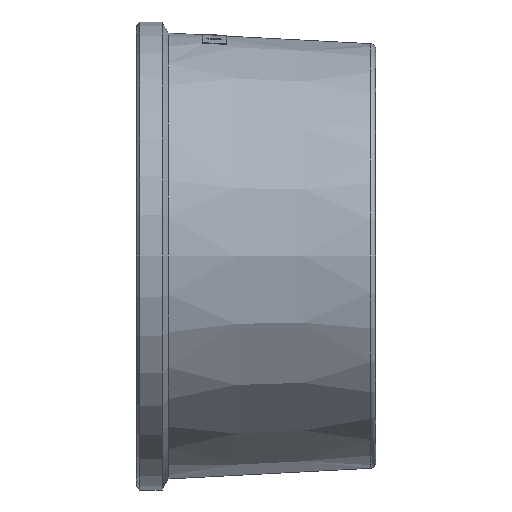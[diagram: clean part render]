
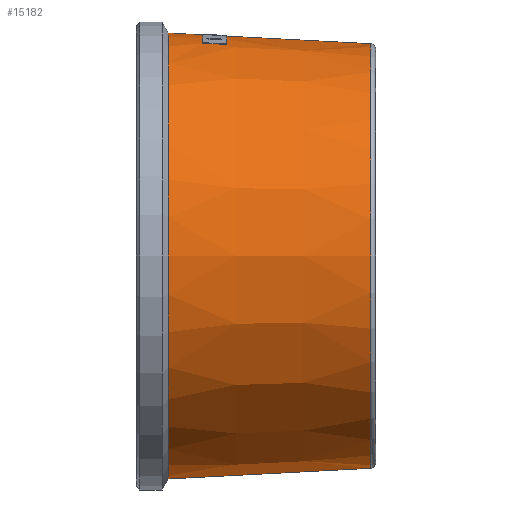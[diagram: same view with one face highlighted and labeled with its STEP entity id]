
A CAD part, left-side view. The second image highlights one B-rep face of the part: STEP entity #15182.
In plain terms, the highlighted conical face has half-angle 3 degrees and reference radius 124.295 mm.
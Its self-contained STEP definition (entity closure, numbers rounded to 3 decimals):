
#4089 = CARTESIAN_POINT ( 'NONE',  ( 0., 121.247, 0. ) ) ;
#4200 = DIRECTION ( 'NONE',  ( 0., 1., 0. ) ) ;
#4228 = CARTESIAN_POINT ( 'NONE',  ( 0., 2.843, 0. ) ) ;
#4229 = DIRECTION ( 'NONE',  ( 0., 0., 1. ) ) ;
#6429 = CARTESIAN_POINT ( 'NONE',  ( 0., 2.843, -124.295 ) ) ;
#6434 = DIRECTION ( 'NONE',  ( 0., 0.999, -0.052 ) ) ;
#6457 = CARTESIAN_POINT ( 'NONE',  ( 0., 2.843, 124.295 ) ) ;
#6467 = DIRECTION ( 'NONE',  ( 0., 0.999, 0.052 ) ) ;
#6472 = DIRECTION ( 'NONE',  ( 0., 0., 1. ) ) ;
#6476 = DIRECTION ( 'NONE',  ( 0., 1., 0. ) ) ;
#6513 = DIRECTION ( 'NONE',  ( 0., 0.999, 0.052 ) ) ;
#6521 = CARTESIAN_POINT ( 'NONE',  ( 0., 2.843, 124.295 ) ) ;
#6836 = CARTESIAN_POINT ( 'NONE',  ( -35., 88.924, 123.96 ) ) ;
#6837 = CARTESIAN_POINT ( 'NONE',  ( -35., 88.365, 123.929 ) ) ;
#6838 = CARTESIAN_POINT ( 'NONE',  ( -35., 87.247, 123.868 ) ) ;
#6844 = CARTESIAN_POINT ( 'NONE',  ( -35., 87.806, 123.899 ) ) ;
#6848 = CARTESIAN_POINT ( 'NONE',  ( -35., 101.247, 124.631 ) ) ;
#6849 = CARTESIAN_POINT ( 'NONE',  ( -35., 97.14, 124.407 ) ) ;
#6864 = CARTESIAN_POINT ( 'NONE',  ( -35., 93.032, 124.183 ) ) ;
#6882 = DIRECTION ( 'NONE',  ( 0., 0., 1. ) ) ;
#6922 = CARTESIAN_POINT ( 'NONE',  ( 0., 2.843, 0. ) ) ;
#6927 = DIRECTION ( 'NONE',  ( 0., 1., 0. ) ) ;
#6989 = DIRECTION ( 'NONE',  ( -1., 0., 0. ) ) ;
#7011 = DIRECTION ( 'NONE',  ( 0., 1., 0. ) ) ;
#7022 = CARTESIAN_POINT ( 'NONE',  ( 0., 87.247, 0. ) ) ;
#7047 = DIRECTION ( 'NONE',  ( 0., -1., 0. ) ) ;
#7056 = DIRECTION ( 'NONE',  ( 0., 0., -1. ) ) ;
#7073 = CARTESIAN_POINT ( 'NONE',  ( 0., 101.247, 0. ) ) ;
#7476 = AXIS2_PLACEMENT_3D ( 'NONE', #6922, #6927, #6882 ) ;
#7477 = AXIS2_PLACEMENT_3D ( 'NONE', #7022, #7011, #6989 ) ;
#7488 = AXIS2_PLACEMENT_3D ( 'NONE', #7073, #7047, #7056 ) ;
#9187 = B_SPLINE_CURVE_WITH_KNOTS ( 'NONE', 3,
 ( #6848, #6849, #6864, #6836, #6837, #6844, #6838 ),
 .UNSPECIFIED., .F., .F.,
 ( 4, 3, 4 ),
 ( 0.021, 0.033, 0.035 ),
 .UNSPECIFIED. ) ;
#9316 = EDGE_LOOP ( 'NONE', ( #10560, #10522, #10552, #10553, #10569, #10568, #10563, #10577 ) ) ;
#9578 = VERTEX_POINT ( 'NONE', #12918 ) ;
#9619 = VERTEX_POINT ( 'NONE', #12958 ) ;
#9941 = VERTEX_POINT ( 'NONE', #12986 ) ;
#10014 = VERTEX_POINT ( 'NONE', #13019 ) ;
#10032 = VERTEX_POINT ( 'NONE', #13039 ) ;
#10043 = VERTEX_POINT ( 'NONE', #13014 ) ;
#10117 = VERTEX_POINT ( 'NONE', #13181 ) ;
#10118 = VERTEX_POINT ( 'NONE', #13139 ) ;
#10522 = ORIENTED_EDGE ( 'NONE', *, *, #17386, .T. ) ;
#10552 = ORIENTED_EDGE ( 'NONE', *, *, #17320, .T. ) ;
#10553 = ORIENTED_EDGE ( 'NONE', *, *, #17400, .F. ) ;
#10560 = ORIENTED_EDGE ( 'NONE', *, *, #17297, .F. ) ;
#10563 = ORIENTED_EDGE ( 'NONE', *, *, #17323, .T. ) ;
#10568 = ORIENTED_EDGE ( 'NONE', *, *, #17402, .F. ) ;
#10569 = ORIENTED_EDGE ( 'NONE', *, *, #17382, .F. ) ;
#10577 = ORIENTED_EDGE ( 'NONE', *, *, #17309, .F. ) ;
#12918 = CARTESIAN_POINT ( 'NONE',  ( 0., 121.247, -130.5 ) ) ;
#12958 = CARTESIAN_POINT ( 'NONE',  ( 0., 121.247, 130.5 ) ) ;
#12986 = CARTESIAN_POINT ( 'NONE',  ( 0., 2.843, 124.295 ) ) ;
#13014 = CARTESIAN_POINT ( 'NONE',  ( -35., 101.247, 124.631 ) ) ;
#13019 = CARTESIAN_POINT ( 'NONE',  ( -35., 87.247, 123.868 ) ) ;
#13039 = CARTESIAN_POINT ( 'NONE',  ( 0., 2.843, -124.295 ) ) ;
#13139 = CARTESIAN_POINT ( 'NONE',  ( 0., 101.247, 129.452 ) ) ;
#13181 = CARTESIAN_POINT ( 'NONE',  ( 0., 87.247, 128.718 ) ) ;
#14985 = CONICAL_SURFACE ( 'NONE', #17754, 124.295, 0.052 ) ;
#14993 = FACE_OUTER_BOUND ( 'NONE', #9316, .T. ) ;
#15182 = ADVANCED_FACE ( 'NONE', ( #14993 ), #14985, .T. ) ;
#15758 = CIRCLE ( 'NONE', #18020, 130.5 ) ;
#15780 = VECTOR ( 'NONE', #6513, 1000. ) ;
#15786 = VECTOR ( 'NONE', #6467, 1000. ) ;
#15794 = VECTOR ( 'NONE', #6434, 1000. ) ;
#15795 = LINE ( 'NONE', #6429, #15794 ) ;
#15799 = LINE ( 'NONE', #6521, #15780 ) ;
#15815 = LINE ( 'NONE', #6457, #15786 ) ;
#15831 = CIRCLE ( 'NONE', #7476, 124.295 ) ;
#15833 = CIRCLE ( 'NONE', #7477, 128.718 ) ;
#15866 = CIRCLE ( 'NONE', #7488, 129.452 ) ;
#17297 = EDGE_CURVE ( 'NONE', #10032, #9578, #15795, .T. ) ;
#17309 = EDGE_CURVE ( 'NONE', #9578, #9619, #15758, .T. ) ;
#17320 = EDGE_CURVE ( 'NONE', #9941, #10117, #15815, .T. ) ;
#17323 = EDGE_CURVE ( 'NONE', #10118, #9619, #15799, .T. ) ;
#17382 = EDGE_CURVE ( 'NONE', #10043, #10014, #9187, .T. ) ;
#17386 = EDGE_CURVE ( 'NONE', #10032, #9941, #15831, .T. ) ;
#17400 = EDGE_CURVE ( 'NONE', #10014, #10117, #15833, .T. ) ;
#17402 = EDGE_CURVE ( 'NONE', #10118, #10043, #15866, .T. ) ;
#17754 = AXIS2_PLACEMENT_3D ( 'NONE', #4228, #4200, #4229 ) ;
#18020 = AXIS2_PLACEMENT_3D ( 'NONE', #4089, #6476, #6472 ) ;
